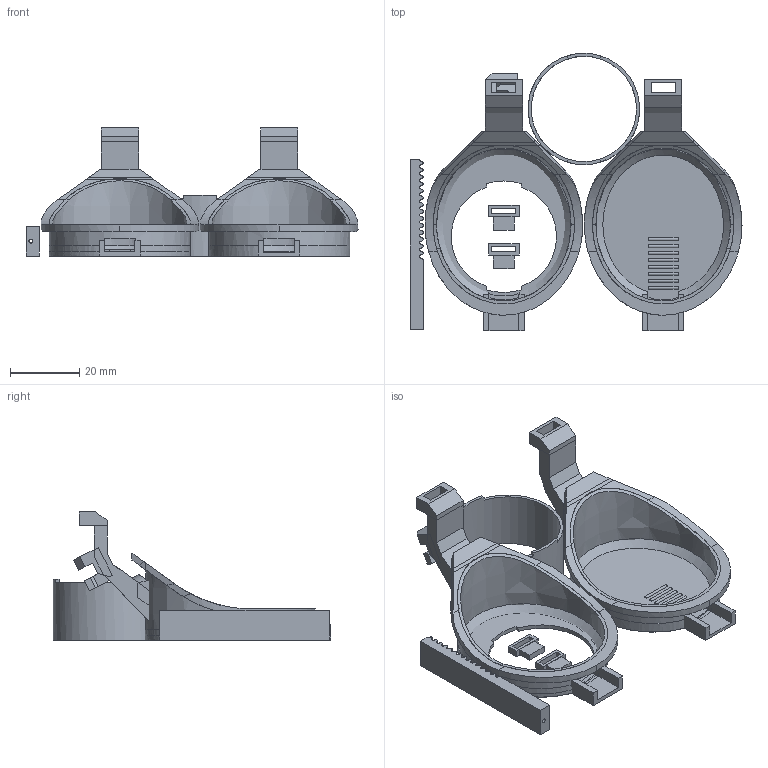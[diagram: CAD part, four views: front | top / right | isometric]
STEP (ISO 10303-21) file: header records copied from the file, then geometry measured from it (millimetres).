
FILE_DESCRIPTION(/* description */ (''),/* implementation_level */ '2;1');
FILE_NAME(/* name */ 'C:/Users/tatsu/Desktop/GZ43BigGoggles/goggles20230921.stp',/* time_stamp */ '2023-09-22T08:18:55+09:00',/* author */ (''),/* organization */ (''),/* preprocessor_version */ 'ST-DEVELOPER v15.2',/* originating_system */ 'Autodesk Translator Framework v2.0.0.5431',/* authorisation */ '');
FILE_SCHEMA (('AUTOMOTIVE_DESIGN { 1 0 10303 214 3 1 1 }'));
Length unit declared in the file: centimetre
Products named in the file (1): goggles20230921
Bounding box: 95.84 x 80.11 x 37 mm (x, y, z)
Volume: 16022.8 mm3; surface area: 27956.8 mm2
Topology: 28 solids, 28 shells, 331 faces, 864 edges, 578 vertices
Faces by surface type: plane 220, cylinder 63, bspline 48
Full cylindrical faces by diameter (mm): 1.1 x1, 30.4 x1, 32.2 x1
Entity records: 12882 total; most frequent: CARTESIAN_POINT 5111, ORIENTED_EDGE 1718, DIRECTION 1364, EDGE_CURVE 859, VERTEX_POINT 576, LINE 520, VECTOR 520, AXIS2_PLACEMENT_3D 422
